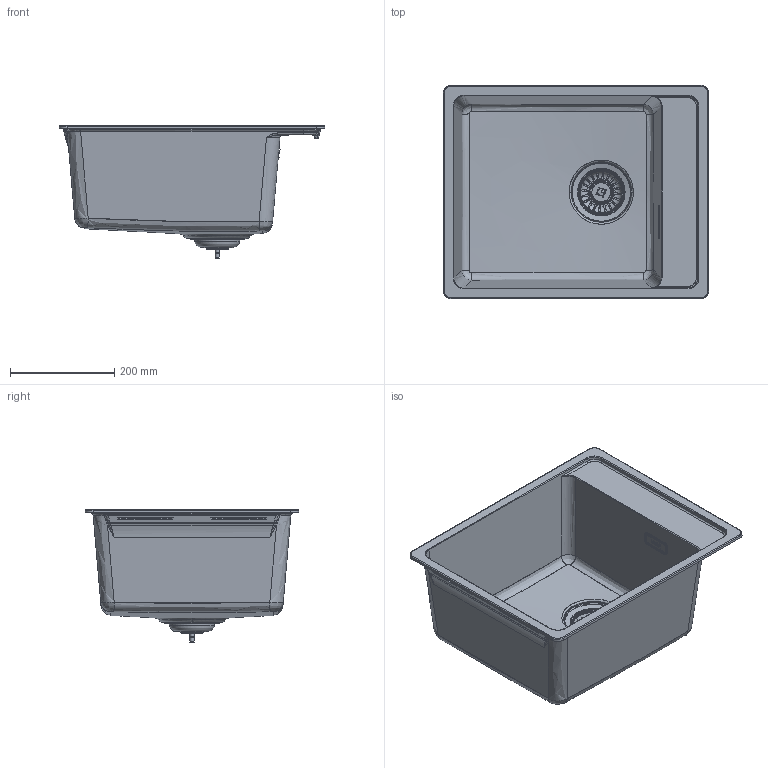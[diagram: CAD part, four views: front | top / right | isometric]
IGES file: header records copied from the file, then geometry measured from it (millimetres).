
Global section: file name: F:\_CONVERSIONE_CAD_2024_2025\_2024\03_3D kits new\Sinks\MARIS\114.0706.741 3D001_Sinks_Maris_MRG-610-37-TL\3D001_Sinks_Maris_MRG-610-37-TL.igs; native system: Rhinoceros ( Feb 13 2024 ); preprocessor: Trout Lake IGES 012 Feb 13 2024; date: 240318.084343; units: millimetre
Bounding box: 510 x 410 x 256 mm (x, y, z)
Surface area: 977023.7 mm2 (no closed solid volume)
Topology: 0 solids, 0 shells, 1487 faces, 9122 edges, 9053 vertices
Faces by surface type: bspline 1487
